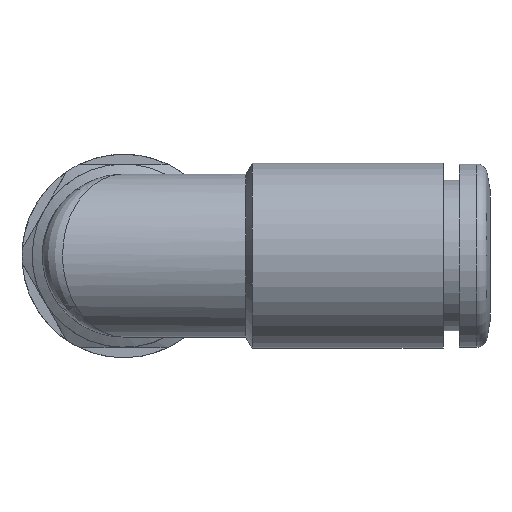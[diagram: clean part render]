
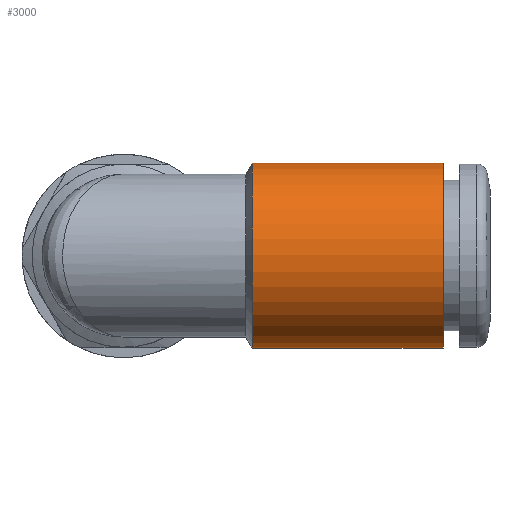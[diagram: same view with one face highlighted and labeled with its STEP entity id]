
A CAD part, top view. The second image highlights one B-rep face of the part: STEP entity #3000.
In plain terms, the highlighted cylindrical face has radius 4.55 mm (diameter 9.1 mm), a full revolution.
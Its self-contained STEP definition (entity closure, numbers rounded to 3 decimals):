
#3000=ADVANCED_FACE('', (#3010,#3020), #3030, .T.);
#8970=AXIS2_PLACEMENT_3D('Ax2Pl3d', #8980, #8990, #9000);
#9730=AXIS2_PLACEMENT_3D('Ax2Pl3d', #9740, #9750, #9760);
#9770=AXIS2_PLACEMENT_3D('Ax2Pl3d', #9780, #9790, #9800);
#8980=CARTESIAN_POINT('HicPkt', (24.991,6.085,
16.862));
#22480=CARTESIAN_POINT('', (24.991,6.085,21.412));
#9740=CARTESIAN_POINT('HicPkt', (15.609,6.085,
16.862));
#9780=CARTESIAN_POINT('HicPkt', (15.609,6.085,
16.862));
#22600=CARTESIAN_POINT('', (15.609,6.085,21.412));
#23300=CIRCLE('Circle', #8970, 4.55);
#23380=CIRCLE('Circle', #9770, 4.55);
#3030=CYLINDRICAL_SURFACE('Zyl', #9730, 4.55);
#8990=DIRECTION('Axis', (1.,0.,0.));
#9000=DIRECTION('RefDirection', (0.,0.,-1.));
#9750=DIRECTION('Axis', (1.,0.,0.));
#9760=DIRECTION('RefDirection', (0.,0.,-1.));
#9790=DIRECTION('Axis', (1.,0.,0.));
#9800=DIRECTION('RefDirection', (0.,0.,-1.));
#29010=EDGE_CURVE('', #29020, #29020, #23300, .T.);
#29350=EDGE_CURVE('', #29360, #29360, #23380, .T.);
#32970=EDGE_LOOP('Edge_loop', (#32980));
#32990=EDGE_LOOP('Edge_loop', (#33000));
#3020=FACE_BOUND('', #32990, .T.);
#3010=FACE_OUTER_BOUND('Face_outer_bound', #32970, .T.);
#32980=ORIENTED_EDGE('', *, *, #29010, .F.);
#33000=ORIENTED_EDGE('', *, *, #29350, .T.);
#29020=VERTEX_POINT('', #22480);
#29360=VERTEX_POINT('', #22600);
